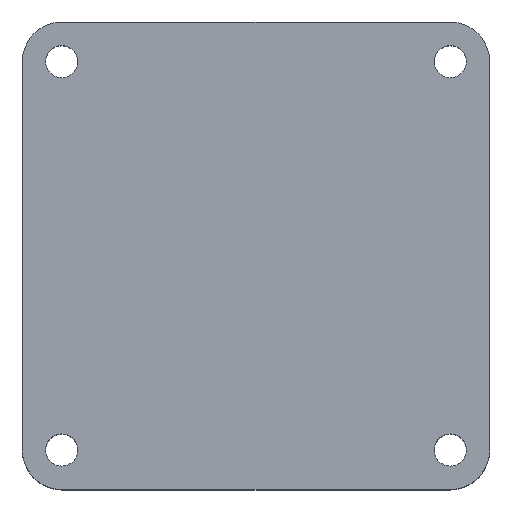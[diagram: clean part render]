
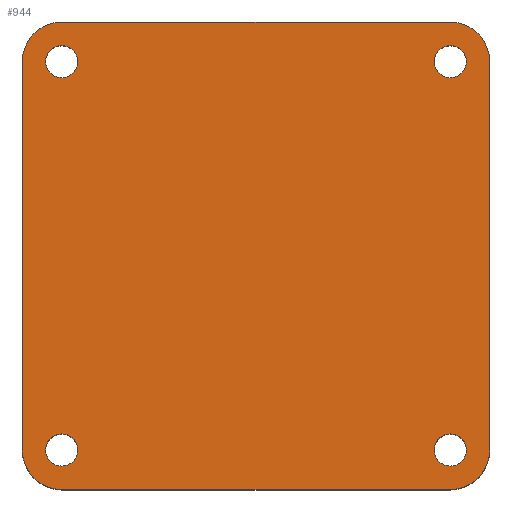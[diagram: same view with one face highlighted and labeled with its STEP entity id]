
A CAD part, top view. The second image highlights one B-rep face of the part: STEP entity #944.
In plain terms, the highlighted planar face has unit normal (0, 0, 1).
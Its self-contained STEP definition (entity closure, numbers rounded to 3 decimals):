
#5 = CARTESIAN_POINT ( 'NONE',  ( -40., -40., 0. ) ) ;
#10 = DIRECTION ( 'NONE',  ( 1., 0., 0. ) ) ;
#18 = ORIENTED_EDGE ( 'NONE', *, *, #1052, .F. ) ;
#25 = CIRCLE ( 'NONE', #56, 2.75 ) ;
#34 = DIRECTION ( 'NONE',  ( 0., 0., -1. ) ) ;
#50 = ORIENTED_EDGE ( 'NONE', *, *, #962, .F. ) ;
#52 = DIRECTION ( 'NONE',  ( 1., 0., 0. ) ) ;
#56 = AXIS2_PLACEMENT_3D ( 'NONE', #486, #235, #57 ) ;
#57 = DIRECTION ( 'NONE',  ( 1., 0., 0. ) ) ;
#70 = AXIS2_PLACEMENT_3D ( 'NONE', #210, #859, #109 ) ;
#80 = VERTEX_POINT ( 'NONE', #408 ) ;
#84 = CARTESIAN_POINT ( 'NONE',  ( -33.2, 40., 0. ) ) ;
#85 = VERTEX_POINT ( 'NONE', #740 ) ;
#97 = ORIENTED_EDGE ( 'NONE', *, *, #966, .F. ) ;
#109 = DIRECTION ( 'NONE',  ( 1., 0., 0. ) ) ;
#117 = CARTESIAN_POINT ( 'NONE',  ( -33.234, 33.234, 0. ) ) ;
#123 = DIRECTION ( 'NONE',  ( 1., 0., 0. ) ) ;
#128 = CARTESIAN_POINT ( 'NONE',  ( -33.2, -33.2, 0. ) ) ;
#132 = AXIS2_PLACEMENT_3D ( 'NONE', #482, #222, #380 ) ;
#143 = VERTEX_POINT ( 'NONE', #84 ) ;
#146 = VERTEX_POINT ( 'NONE', #591 ) ;
#158 = EDGE_LOOP ( 'NONE', ( #904, #527 ) ) ;
#164 = VERTEX_POINT ( 'NONE', #167 ) ;
#166 = DIRECTION ( 'NONE',  ( 0., 1., 0. ) ) ;
#167 = CARTESIAN_POINT ( 'NONE',  ( 40., -33.2, 0. ) ) ;
#169 = DIRECTION ( 'NONE',  ( 1., 0., 0. ) ) ;
#186 = EDGE_CURVE ( 'NONE', #777, #80, #189, .T. ) ;
#189 = CIRCLE ( 'NONE', #825, 2.75 ) ;
#190 = FACE_OUTER_BOUND ( 'NONE', #755, .T. ) ;
#191 = CARTESIAN_POINT ( 'NONE',  ( -33.2, 33.2, 0. ) ) ;
#203 = VERTEX_POINT ( 'NONE', #924 ) ;
#204 = DIRECTION ( 'NONE',  ( 1., 0., 0. ) ) ;
#209 = CARTESIAN_POINT ( 'NONE',  ( -40., 40., 0. ) ) ;
#210 = CARTESIAN_POINT ( 'NONE',  ( -33.234, -33.234, 0. ) ) ;
#213 = EDGE_CURVE ( 'NONE', #713, #957, #931, .T. ) ;
#217 = AXIS2_PLACEMENT_3D ( 'NONE', #117, #849, #123 ) ;
#219 = ORIENTED_EDGE ( 'NONE', *, *, #688, .F. ) ;
#222 = DIRECTION ( 'NONE',  ( 0., 0., 1. ) ) ;
#223 = VERTEX_POINT ( 'NONE', #765 ) ;
#230 = CIRCLE ( 'NONE', #665, 6.8 ) ;
#235 = DIRECTION ( 'NONE',  ( 0., 0., 1. ) ) ;
#247 = CARTESIAN_POINT ( 'NONE',  ( -30.484, -33.234, 0. ) ) ;
#253 = CARTESIAN_POINT ( 'NONE',  ( 30.484, -33.234, 0. ) ) ;
#259 = VERTEX_POINT ( 'NONE', #919 ) ;
#264 = AXIS2_PLACEMENT_3D ( 'NONE', #520, #773, #288 ) ;
#267 = CIRCLE ( 'NONE', #132, 2.75 ) ;
#287 = CARTESIAN_POINT ( 'NONE',  ( 33.2, 33.2, 0. ) ) ;
#288 = DIRECTION ( 'NONE',  ( 1., 0., 0. ) ) ;
#292 = CARTESIAN_POINT ( 'NONE',  ( -40., -40., 0. ) ) ;
#305 = EDGE_LOOP ( 'NONE', ( #219, #725 ) ) ;
#312 = CARTESIAN_POINT ( 'NONE',  ( 35.984, 33.234, 0. ) ) ;
#316 = VECTOR ( 'NONE', #625, 1000. ) ;
#342 = DIRECTION ( 'NONE',  ( 0., 0., 1. ) ) ;
#347 = EDGE_LOOP ( 'NONE', ( #750, #508 ) ) ;
#351 = EDGE_CURVE ( 'NONE', #259, #146, #815, .T. ) ;
#354 = FACE_BOUND ( 'NONE', #347, .T. ) ;
#361 = FACE_BOUND ( 'NONE', #158, .T. ) ;
#365 = LINE ( 'NONE', #209, #747 ) ;
#376 = FACE_BOUND ( 'NONE', #570, .T. ) ;
#379 = EDGE_CURVE ( 'NONE', #203, #841, #423, .T. ) ;
#380 = DIRECTION ( 'NONE',  ( 1., 0., 0. ) ) ;
#386 = CIRCLE ( 'NONE', #766, 6.8 ) ;
#387 = AXIS2_PLACEMENT_3D ( 'NONE', #509, #907, #10 ) ;
#389 = AXIS2_PLACEMENT_3D ( 'NONE', #737, #834, #169 ) ;
#408 = CARTESIAN_POINT ( 'NONE',  ( 35.984, -33.234, 0. ) ) ;
#423 = CIRCLE ( 'NONE', #387, 2.75 ) ;
#431 = EDGE_CURVE ( 'NONE', #164, #706, #599, .T. ) ;
#440 = LINE ( 'NONE', #1010, #534 ) ;
#450 = ORIENTED_EDGE ( 'NONE', *, *, #576, .F. ) ;
#454 = DIRECTION ( 'NONE',  ( 1., 0., 0. ) ) ;
#464 = VERTEX_POINT ( 'NONE', #533 ) ;
#472 = AXIS2_PLACEMENT_3D ( 'NONE', #822, #845, #903 ) ;
#482 = CARTESIAN_POINT ( 'NONE',  ( 33.234, -33.234, 0. ) ) ;
#486 = CARTESIAN_POINT ( 'NONE',  ( -33.234, 33.234, 0. ) ) ;
#489 = ORIENTED_EDGE ( 'NONE', *, *, #431, .F. ) ;
#504 = EDGE_CURVE ( 'NONE', #841, #203, #549, .T. ) ;
#508 = ORIENTED_EDGE ( 'NONE', *, *, #379, .F. ) ;
#509 = CARTESIAN_POINT ( 'NONE',  ( -33.234, -33.234, 0. ) ) ;
#520 = CARTESIAN_POINT ( 'NONE',  ( 33.2, -33.2, 0. ) ) ;
#524 = DIRECTION ( 'NONE',  ( -1., 0., 0. ) ) ;
#525 = DIRECTION ( 'NONE',  ( 0., 0., -1. ) ) ;
#527 = ORIENTED_EDGE ( 'NONE', *, *, #763, .F. ) ;
#532 = CARTESIAN_POINT ( 'NONE',  ( -30.484, 33.234, 0. ) ) ;
#533 = CARTESIAN_POINT ( 'NONE',  ( 33.2, 40., 0. ) ) ;
#534 = VECTOR ( 'NONE', #921, 1000. ) ;
#538 = DIRECTION ( 'NONE',  ( 0., 0., -1. ) ) ;
#549 = CIRCLE ( 'NONE', #70, 2.75 ) ;
#570 = EDGE_LOOP ( 'NONE', ( #1026, #97 ) ) ;
#571 = CARTESIAN_POINT ( 'NONE',  ( 33.2, -40., 0. ) ) ;
#576 = EDGE_CURVE ( 'NONE', #146, #143, #636, .T. ) ;
#577 = ORIENTED_EDGE ( 'NONE', *, *, #351, .F. ) ;
#591 = CARTESIAN_POINT ( 'NONE',  ( -40., 33.2, 0. ) ) ;
#599 = CIRCLE ( 'NONE', #264, 6.8 ) ;
#621 = PLANE ( 'NONE',  #634 ) ;
#625 = DIRECTION ( 'NONE',  ( -1., 0., 0. ) ) ;
#634 = AXIS2_PLACEMENT_3D ( 'NONE', #292, #34, #524 ) ;
#636 = CIRCLE ( 'NONE', #991, 6.8 ) ;
#665 = AXIS2_PLACEMENT_3D ( 'NONE', #287, #538, #862 ) ;
#668 = CIRCLE ( 'NONE', #389, 2.75 ) ;
#676 = EDGE_CURVE ( 'NONE', #1031, #85, #25, .T. ) ;
#678 = DIRECTION ( 'NONE',  ( 1., 0., 0. ) ) ;
#682 = CARTESIAN_POINT ( 'NONE',  ( 33.234, -33.234, 0. ) ) ;
#688 = EDGE_CURVE ( 'NONE', #80, #777, #267, .T. ) ;
#695 = CARTESIAN_POINT ( 'NONE',  ( 30.484, 33.234, 0. ) ) ;
#706 = VERTEX_POINT ( 'NONE', #571 ) ;
#711 = CARTESIAN_POINT ( 'NONE',  ( -33.2, -40., 0. ) ) ;
#713 = VERTEX_POINT ( 'NONE', #312 ) ;
#725 = ORIENTED_EDGE ( 'NONE', *, *, #186, .F. ) ;
#732 = VECTOR ( 'NONE', #166, 1000. ) ;
#737 = CARTESIAN_POINT ( 'NONE',  ( 33.234, 33.234, 0. ) ) ;
#740 = CARTESIAN_POINT ( 'NONE',  ( -35.984, 33.234, 0. ) ) ;
#747 = VECTOR ( 'NONE', #454, 1000. ) ;
#750 = ORIENTED_EDGE ( 'NONE', *, *, #504, .F. ) ;
#755 = EDGE_LOOP ( 'NONE', ( #50, #1059, #489, #1016, #18, #994, #450, #577 ) ) ;
#763 = EDGE_CURVE ( 'NONE', #957, #713, #668, .T. ) ;
#765 = CARTESIAN_POINT ( 'NONE',  ( 40., 33.2, 0. ) ) ;
#766 = AXIS2_PLACEMENT_3D ( 'NONE', #128, #783, #204 ) ;
#773 = DIRECTION ( 'NONE',  ( 0., 0., -1. ) ) ;
#777 = VERTEX_POINT ( 'NONE', #253 ) ;
#783 = DIRECTION ( 'NONE',  ( 0., 0., -1. ) ) ;
#815 = LINE ( 'NONE', #5, #732 ) ;
#822 = CARTESIAN_POINT ( 'NONE',  ( 33.234, 33.234, 0. ) ) ;
#825 = AXIS2_PLACEMENT_3D ( 'NONE', #682, #342, #678 ) ;
#834 = DIRECTION ( 'NONE',  ( 0., 0., 1. ) ) ;
#841 = VERTEX_POINT ( 'NONE', #247 ) ;
#845 = DIRECTION ( 'NONE',  ( 0., 0., 1. ) ) ;
#849 = DIRECTION ( 'NONE',  ( 0., 0., 1. ) ) ;
#859 = DIRECTION ( 'NONE',  ( 0., 0., 1. ) ) ;
#862 = DIRECTION ( 'NONE',  ( 1., 0., 0. ) ) ;
#867 = FACE_BOUND ( 'NONE', #305, .T. ) ;
#875 = EDGE_CURVE ( 'NONE', #223, #164, #440, .T. ) ;
#903 = DIRECTION ( 'NONE',  ( 1., 0., 0. ) ) ;
#904 = ORIENTED_EDGE ( 'NONE', *, *, #213, .F. ) ;
#907 = DIRECTION ( 'NONE',  ( 0., 0., 1. ) ) ;
#919 = CARTESIAN_POINT ( 'NONE',  ( -40., -33.2, 0. ) ) ;
#921 = DIRECTION ( 'NONE',  ( 0., -1., 0. ) ) ;
#924 = CARTESIAN_POINT ( 'NONE',  ( -35.984, -33.234, 0. ) ) ;
#931 = CIRCLE ( 'NONE', #472, 2.75 ) ;
#944 = ADVANCED_FACE ( 'NONE', ( #190, #376, #354, #867, #361 ), #621, .F. ) ;
#955 = EDGE_CURVE ( 'NONE', #143, #464, #365, .T. ) ;
#957 = VERTEX_POINT ( 'NONE', #695 ) ;
#962 = EDGE_CURVE ( 'NONE', #1038, #259, #386, .T. ) ;
#966 = EDGE_CURVE ( 'NONE', #85, #1031, #989, .T. ) ;
#989 = CIRCLE ( 'NONE', #217, 2.75 ) ;
#991 = AXIS2_PLACEMENT_3D ( 'NONE', #191, #525, #52 ) ;
#994 = ORIENTED_EDGE ( 'NONE', *, *, #955, .F. ) ;
#1010 = CARTESIAN_POINT ( 'NONE',  ( 40., -40., 0. ) ) ;
#1016 = ORIENTED_EDGE ( 'NONE', *, *, #875, .F. ) ;
#1023 = LINE ( 'NONE', #1029, #316 ) ;
#1026 = ORIENTED_EDGE ( 'NONE', *, *, #676, .F. ) ;
#1029 = CARTESIAN_POINT ( 'NONE',  ( -40., -40., 0. ) ) ;
#1031 = VERTEX_POINT ( 'NONE', #532 ) ;
#1032 = EDGE_CURVE ( 'NONE', #706, #1038, #1023, .T. ) ;
#1038 = VERTEX_POINT ( 'NONE', #711 ) ;
#1052 = EDGE_CURVE ( 'NONE', #464, #223, #230, .T. ) ;
#1059 = ORIENTED_EDGE ( 'NONE', *, *, #1032, .F. ) ;
